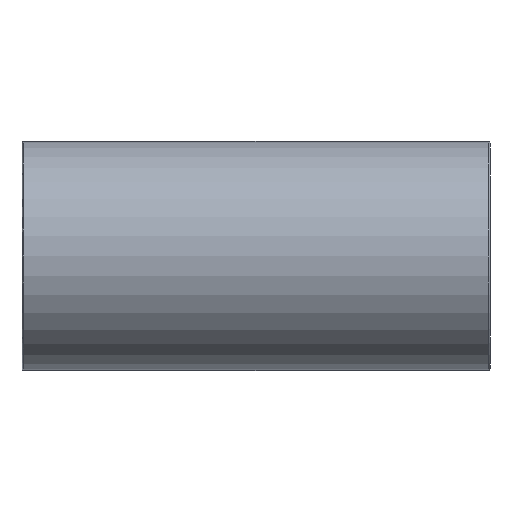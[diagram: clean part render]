
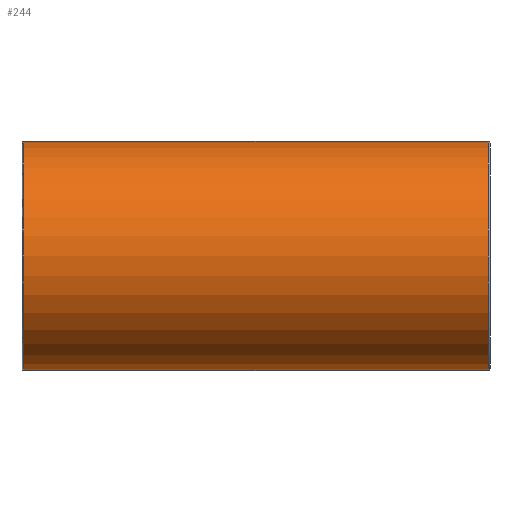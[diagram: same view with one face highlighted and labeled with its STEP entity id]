
A CAD part, front view. The second image highlights one B-rep face of the part: STEP entity #244.
In plain terms, the highlighted cylindrical face has radius 24 mm (diameter 48 mm), a full revolution.
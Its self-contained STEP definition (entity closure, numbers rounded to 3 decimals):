
#28=ELLIPSE('',#270,33.941,24.);
#29=ELLIPSE('',#271,33.941,24.);
#32=FACE_BOUND('',#77,.T.);
#33=FACE_BOUND('',#78,.T.);
#55=FACE_OUTER_BOUND('',#76,.T.);
#76=EDGE_LOOP('',(#188));
#77=EDGE_LOOP('',(#189));
#78=EDGE_LOOP('',(#190,#191));
#120=CIRCLE('',#268,24.);
#121=CIRCLE('',#269,24.);
#140=VERTEX_POINT('',#406);
#141=VERTEX_POINT('',#408);
#142=VERTEX_POINT('',#410);
#143=VERTEX_POINT('',#411);
#164=EDGE_CURVE('',#140,#140,#120,.T.);
#165=EDGE_CURVE('',#141,#141,#121,.T.);
#166=EDGE_CURVE('',#142,#143,#28,.T.);
#167=EDGE_CURVE('',#143,#142,#29,.T.);
#188=ORIENTED_EDGE('',*,*,#164,.F.);
#189=ORIENTED_EDGE('',*,*,#165,.F.);
#190=ORIENTED_EDGE('',*,*,#166,.F.);
#191=ORIENTED_EDGE('',*,*,#167,.F.);
#236=CYLINDRICAL_SURFACE('',#267,24.);
#244=ADVANCED_FACE('',(#55,#32,#33),#236,.T.);
#267=AXIS2_PLACEMENT_3D('',#405,#314,#315);
#268=AXIS2_PLACEMENT_3D('',#407,#316,#317);
#269=AXIS2_PLACEMENT_3D('',#409,#318,#319);
#270=AXIS2_PLACEMENT_3D('',#412,#320,#321);
#271=AXIS2_PLACEMENT_3D('',#413,#322,#323);
#314=DIRECTION('center_axis',(1.,0.,0.));
#315=DIRECTION('ref_axis',(0.,1.,0.));
#316=DIRECTION('center_axis',(-1.,0.,0.));
#317=DIRECTION('ref_axis',(0.,-1.,0.));
#318=DIRECTION('center_axis',(1.,0.,0.));
#319=DIRECTION('ref_axis',(0.,-1.,0.));
#320=DIRECTION('center_axis',(-0.707,0.707,0.));
#321=DIRECTION('ref_axis',(0.707,0.707,0.));
#322=DIRECTION('center_axis',(0.707,0.707,0.));
#323=DIRECTION('ref_axis',(-0.707,0.707,0.));
#405=CARTESIAN_POINT('Origin',(0.,0.,
0.));
#406=CARTESIAN_POINT('',(-48.61,24.,0.));
#407=CARTESIAN_POINT('Origin',(-48.61,0.,0.));
#408=CARTESIAN_POINT('',(48.61,24.,0.));
#409=CARTESIAN_POINT('Origin',(48.61,0.,0.));
#410=CARTESIAN_POINT('',(0.,0.,24.));
#411=CARTESIAN_POINT('',(0.,0.,-24.));
#412=CARTESIAN_POINT('Origin',(0.,0.,0.));
#413=CARTESIAN_POINT('Origin',(0.,0.,0.));
